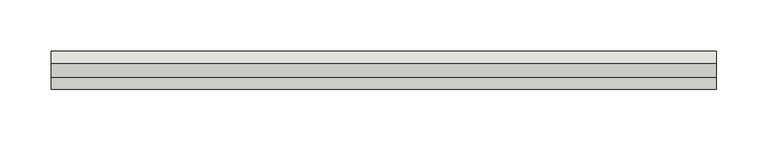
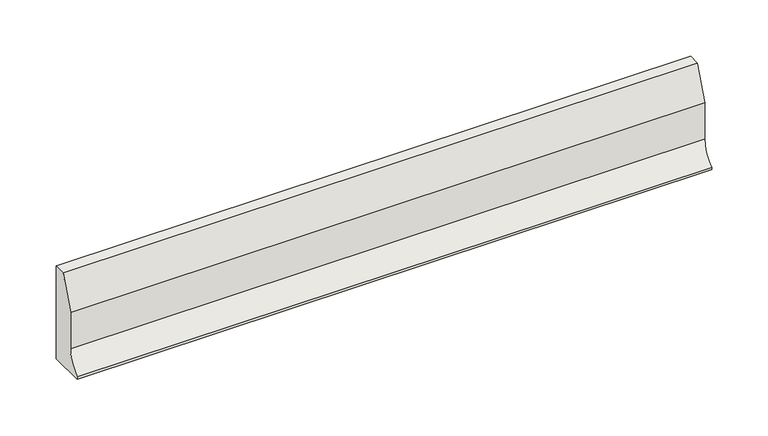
"""IFC4 building model written with IfcOpenShell, lengths in millimetres: wall geometry, GM_PC_WPB_ACO kerb PB straight_ACO : PB H100 plain."""

from ifc_helpers import new_model, si_unit, point, frame, frame_2d, origin, place, context, project, spatial, polyline, circle_curve, trimmed, segment, composite_curve, outline, extrude, source, transform, mapped, element, save


def wall_f734193e(model_context):
    return source(origin(), model_context, "Body", "SweptSolid", [
        extrude(outline(composite_curve([segment(polyline([(-25.0, 65.0), (-12.0, 100.0), (0.0, 100.0), (0.0, 0.0), (-37.0, 0.0), (-37.0, 2.5)]), True, "CONTINUOUS"), segment(trimmed(circle_curve(frame_2d((-54.0104167, 26.0)), 29.0104167), [point((-37.0, 2.5))], [point((-25.0, 26.0))], True, "CARTESIAN"), True, "CONTINUOUS"), segment(polyline([(-25.0, 26.0), (-25.0, 65.0)]), True, "CONTINUOUS")], self_intersect=False)), frame((0.0, 0.0, 0.0), z_axis=(1.0, 0.0, 0.0), x_axis=(0.0, 1.0, 0.0)), (0.0, 0.0, 1.0), 648.0),
    ])


if __name__ == "__main__":
    model = new_model("IFC4")
    model_context = context("Model", 3, world=origin())
    ifc_project = project(units=[si_unit("LENGTHUNIT", "METRE", prefix="MILLI")], contexts=[model_context])
    site = spatial("IfcSite", under=ifc_project)
    building = spatial("IfcBuilding", under=site)
    placement = place(None, origin())
    wall_shape = wall_f734193e(model_context)
    element("IfcWall", 1, ObjectType="GM_PC_WPB_ACO kerb PB straight_ACO : PB H100 plain", at=placement, inside=building, context=model_context, shape_type="MappedRepresentation", body=[
        mapped(wall_shape, transform((0.0, 0.0, 0.0), x_axis=(1.0, 0.0, 0.0), y_axis=(0.0, 1.0, 0.0), z_axis=(0.0, 0.0, 1.0))),
    ])
    save(model, "model.ifc")
